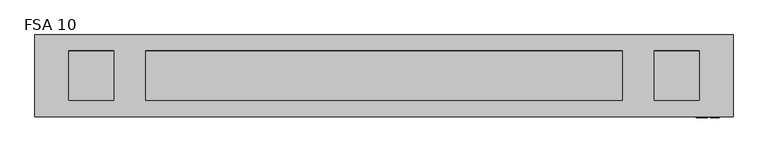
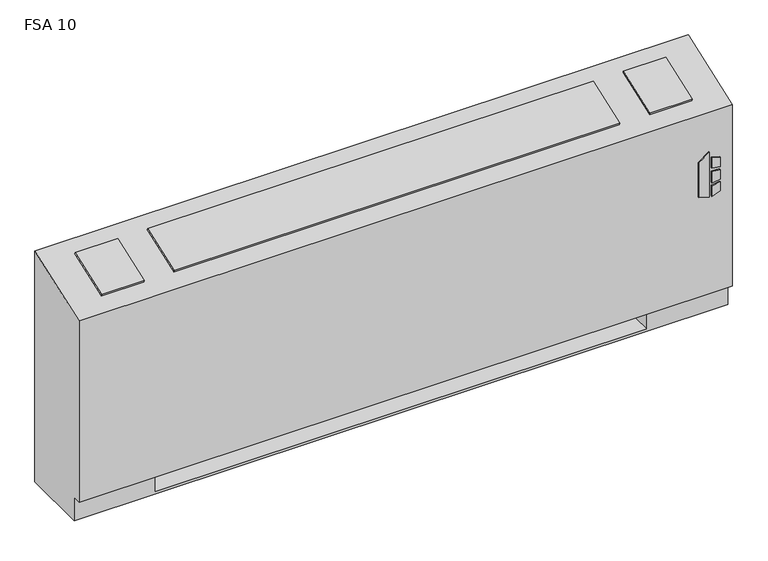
"""IFC4 building model written with IfcOpenShell, lengths in millimetres: proxy geometry, Vertical_Fan_Coil_Unit_-_FSA_-_IEC_-_2-Pipe_TS-FR_RH_2022 : FSA 10."""

from ifc_helpers import new_model, si_unit, point, frame, frame_2d, origin, place, context, project, spatial, polyline, circle_curve, trimmed, segment, composite_curve, outline, extrude, source, transform, mapped, element, save
from ifc_brep_helpers import plane_surface, revolved_surface, advanced_brep


def fsa_10_9e433b3c(model_context):
    return source(origin(), model_context, "Body", "SolidModel", [
        extrude(outline(polyline([(391.6086829, 1027.1868862), (381.6606126, 1059.3602728), (523.831537, 1059.3602728), (500.8095309, 1027.1868862), (391.6086829, 1027.1868862)])), frame((0.0, 12.7, 0.0), z_axis=(0.0, 1.0, 0.0), x_axis=(0.0, 0.0, 1.0)), (0.0, 0.0, 1.0), 3.175),
        extrude(outline(polyline([(470.6079683, 1066.1186058), (467.4055757, 1092.2), (496.6344168, 1092.2), (504.6988318, 1066.1186058), (470.6079683, 1066.1186058)])), frame((0.0, 12.7, 0.0), z_axis=(0.0, 1.0, 0.0), x_axis=(0.0, 0.0, 1.0)), (0.0, 0.0, 1.0), 3.175),
        extrude(outline(polyline([(418.7444414, 1092.2), (415.0789404, 1066.1186058), (381.6606126, 1066.1186058), (390.2948498, 1092.2), (418.7444414, 1092.2)])), frame((0.0, 12.7, 0.0), z_axis=(0.0, 1.0, 0.0), x_axis=(0.0, 0.0, 1.0)), (0.0, 0.0, 1.0), 3.175),
        extrude(outline(polyline([(458.0596028, 1092.2), (460.3414292, 1066.1186058), (424.4038806, 1066.1186058), (427.1451456, 1092.2), (458.0596028, 1092.2)])), frame((0.0, 12.7, 0.0), z_axis=(0.0, 1.0, 0.0), x_axis=(0.0, 0.0, 1.0)), (0.0, 0.0, 1.0), 3.175),
        extrude(outline(polyline([(-704.85, 81.534), (-704.85, 223.266), (-584.2, 223.266), (-584.2, 81.534), (-704.85, 81.534)])), frame((0.0, 0.0, 327.025), z_axis=(0.0, 0.0, 1.0), x_axis=(1.0, 0.0, 0.0)), (0.0, 0.0, 1.0), 260.35),
        extrude(outline(composite_curve([segment(trimmed(circle_curve(frame_2d((952.5, 130.175)), 9.525), [point((942.975, 130.175))], [point((962.025, 130.175))], False, "CARTESIAN"), True, "CONTINUOUS"), segment(trimmed(circle_curve(frame_2d((952.5, 130.175)), 9.525), [point((962.025, 130.175))], [point((942.975, 130.175))], False, "CARTESIAN"), True, "CONTINUOUS")], self_intersect=False)), frame((0.0, 0.0, 101.6), z_axis=(0.0, 0.0, 1.0), x_axis=(1.0, 0.0, 0.0)), (0.0, 0.0, 1.0), 25.4),
        extrude(outline(polyline([(1054.1, 196.85), (1054.1, 63.5), (889.0, 63.5), (889.0, 196.85), (1054.1, 196.85)])), frame((0.0, 0.0, 127.0), z_axis=(0.0, 0.0, 1.0), x_axis=(1.0, 0.0, 0.0)), (0.0, 0.0, 1.0), 50.8),
        extrude(outline(polyline([(0.0, -146.0500001), (0.0, 0.0), (127.0, 0.0), (127.0, -146.0500001), (0.0, -146.0500001)])), frame((-731.393, 200.4217127, 714.3418685), z_axis=(0.0, -0.3396444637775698, 0.9405538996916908), x_axis=(1.0, 0.0, 0.0)), (0.0, 0.0, 1.0), 6.35),
        extrude(outline(polyline([(0.0, -146.0500001), (0.0, 0.0), (1333.5, 0.0), (1333.5, -146.0500001), (0.0, -146.0500001)])), frame((819.15, 63.0538156, 664.7367945), z_axis=(0.0, -0.33964446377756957, 0.9405538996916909), x_axis=(-1.0, 0.0, 0.0)), (0.0, 0.0, 1.0), 6.35),
        extrude(outline(polyline([(0.0, -146.0500001), (0.0, 0.0), (127.0, 0.0), (127.0, -146.0500001), (0.0, -146.0500001)])), frame((1036.193, 63.0538156, 664.7367945), z_axis=(0.0, -0.3396444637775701, 0.9405538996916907), x_axis=(-1.0, 0.0, 0.0)), (0.0, 0.0, 1.0), 6.35),
        extrude(outline(composite_curve([segment(trimmed(circle_curve(frame_2d((109.347, 456.819)), 7.9375), [point((109.347, 464.7565))], [point((109.347, 448.8815))], False, "CARTESIAN"), True, "CONTINUOUS"), segment(trimmed(circle_curve(frame_2d((109.347, 456.819)), 7.9375), [point((109.347, 448.8815))], [point((109.347, 464.7565))], False, "CARTESIAN"), True, "CONTINUOUS")], self_intersect=False)), frame((889.0, 0.0, 0.0), z_axis=(1.0, 0.0, 0.0), x_axis=(0.0, 1.0, 0.0)), (0.0, 0.0, 1.0), 50.8),
        extrude(outline(composite_curve([segment(trimmed(circle_curve(frame_2d((157.4546, 429.4632)), 7.9375), [point((157.4546, 437.4007))], [point((157.4546, 421.5257))], False, "CARTESIAN"), True, "CONTINUOUS"), segment(trimmed(circle_curve(frame_2d((157.4546, 429.4632)), 7.9375), [point((157.4546, 421.5257))], [point((157.4546, 437.4007))], False, "CARTESIAN"), True, "CONTINUOUS")], self_intersect=False)), frame((889.0, 0.0, 0.0), z_axis=(1.0, 0.0, 0.0), x_axis=(0.0, 1.0, 0.0)), (0.0, 0.0, 1.0), 50.8),
        advanced_brep(
        [(-825.5, 244.475, 0.0), (1130.3, 244.475, 0.0), (1130.3, 41.275, 0.0), (-825.5, 41.275, 0.0), (-825.5, 244.475, 730.25), (1130.3, 244.475, 730.25), (889.0, 244.475, 73.025), (1117.6, 244.475, 73.025), (1117.6, 244.475, 654.05), (889.0, 244.475, 654.05), (889.0, 244.475, 414.8650565), (917.575, 244.475, 414.8650565), (917.575, 244.475, 385.2349435), (889.0, 244.475, 385.2349435), (889.0, 244.475, 287.3375), (917.575, 244.475, 287.3375), (917.575, 244.475, 258.7625), (889.0, 244.475, 258.7625), (889.0, 244.475, 141.2875), (917.575, 244.475, 141.2875), (917.575, 244.475, 112.7125), (889.0, 244.475, 112.7125), (-584.2, 244.475, 654.05), (-812.8, 244.475, 654.05), (-812.8, 244.475, 73.025), (-584.2, 244.475, 73.025), (-584.2, 244.475, 112.7125), (-612.775, 244.475, 112.7125), (-612.775, 244.475, 141.2875), (-584.2, 244.475, 141.2875), (-584.2, 244.475, 258.7625), (-612.775, 244.475, 258.7625), (-612.775, 244.475, 287.3375), (-584.2, 244.475, 287.3375), (-584.2, 244.475, 385.2349435), (-612.775, 244.475, 385.2349435), (-612.775, 244.475, 414.8650565), (-584.2, 244.475, 414.8650565), (907.2626, 244.475, 127.0), (896.1374, 244.475, 127.0), (907.2626, 244.475, 400.05), (896.1374, 244.475, 400.05), (907.2626, 244.475, 273.05), (896.1374, 244.475, 273.05), (-591.3374, 244.475, 127.0), (-602.4626, 244.475, 127.0), (-591.3374, 244.475, 273.05), (-602.4626, 244.475, 273.05), (-591.3374, 244.475, 400.05), (-602.4626, 244.475, 400.05), (-825.5, 41.275, 73.025), (-825.5, 15.875, 73.025), (-825.5, 15.875, 647.7), (1130.3, 15.875, 73.025), (1130.3, 15.875, 647.7), (1130.3, 41.275, 73.025), (-584.2, 41.275, 73.025), (-584.2, 225.425, 73.025), (889.0, 225.425, 73.025), (889.0, 41.275, 73.025), (889.0, 41.275, 6.35), (-584.2, 41.275, 6.35), (889.0, 41.275, 654.05), (1117.6, 41.275, 654.05), (1117.6, 41.275, 73.025), (889.0, 41.275, 73.025), (-584.2, 41.275, 654.05), (-584.2, 41.275, 73.025), (-812.8, 41.275, 73.025), (-812.8, 41.275, 654.05), (889.0, 225.425, 73.025), (889.0, 238.125, 112.7125), (889.0, 238.125, 141.2875), (889.0, 238.125, 258.7625), (889.0, 238.125, 287.3375), (889.0, 238.125, 385.2349435), (889.0, 238.125, 414.8650565), (-584.2, 225.425, 73.025), (-584.2, 238.125, 414.8650565), (-584.2, 238.125, 385.2349435), (-584.2, 238.125, 287.3375), (-584.2, 238.125, 258.7625), (-584.2, 238.125, 141.2875), (-584.2, 238.125, 112.7125), (-584.2, 225.425, 6.35), (889.0, 225.425, 6.35), (917.575, 238.125, 112.7125), (917.575, 238.125, 141.2875), (896.1374, 238.125, 127.0), (907.2626, 238.125, 127.0), (917.575, 238.125, 258.7625), (917.575, 238.125, 287.3375), (896.1374, 238.125, 273.05), (907.2626, 238.125, 273.05), (917.575, 238.125, 385.2349435), (917.575, 238.125, 414.8650565), (896.1374, 238.125, 400.05), (907.2626, 238.125, 400.05), (-612.775, 238.125, 141.2875), (-612.775, 238.125, 112.7125), (-602.4626, 238.125, 127.0), (-591.3374, 238.125, 127.0), (-612.775, 238.125, 287.3375), (-612.775, 238.125, 258.7625), (-602.4626, 238.125, 273.05), (-591.3374, 238.125, 273.05), (-612.775, 238.125, 414.8650565), (-612.775, 238.125, 385.2349435), (-602.4626, 238.125, 400.05), (-591.3374, 238.125, 400.05)],
        [
            (0, 1),
            (1, 2),
            (2, 3),
            (3, 0),
            (0, 4),
            (4, 5),
            (5, 1),
            (6, 7),
            (7, 8),
            (8, 9),
            (9, 10),
            (10, 11),
            (11, 12),
            (12, 13),
            (13, 14),
            (14, 15),
            (15, 16),
            (16, 17),
            (17, 18),
            (18, 19),
            (19, 20),
            (20, 21),
            (21, 6),
            (22, 23),
            (23, 24),
            (24, 25),
            (25, 26),
            (26, 27),
            (27, 28),
            (28, 29),
            (29, 30),
            (30, 31),
            (31, 32),
            (32, 33),
            (33, 34),
            (34, 35),
            (35, 36),
            (36, 37),
            (37, 22),
            (38, 39, circle_curve(frame((901.7, 244.475, 127.0), z_axis=(0.0, -1.0, 0.0), x_axis=(-1.0, 0.0, 0.0)), 5.5626)),
            (39, 38, circle_curve(frame((901.7, 244.475, 127.0), z_axis=(0.0, -1.0, 0.0), x_axis=(-1.0, 0.0, 0.0)), 5.5626)),
            (40, 41, circle_curve(frame((901.7, 244.475, 400.05), z_axis=(0.0, -1.0, 0.0), x_axis=(-1.0, 0.0, 0.0)), 5.5626)),
            (41, 40, circle_curve(frame((901.7, 244.475, 400.05), z_axis=(0.0, -1.0, 0.0), x_axis=(-1.0, 0.0, 0.0)), 5.5626)),
            (42, 43, circle_curve(frame((901.7, 244.475, 273.05), z_axis=(0.0, -1.0, 0.0), x_axis=(-1.0, 0.0, 0.0)), 5.5626)),
            (43, 42, circle_curve(frame((901.7, 244.475, 273.05), z_axis=(0.0, -1.0, 0.0), x_axis=(-1.0, 0.0, 0.0)), 5.5626)),
            (44, 45, circle_curve(frame((-596.9, 244.475, 127.0), z_axis=(0.0, -1.0, 0.0), x_axis=(-1.0, 0.0, 0.0)), 5.5626)),
            (45, 44, circle_curve(frame((-596.9, 244.475, 127.0), z_axis=(0.0, -1.0, 0.0), x_axis=(-1.0, 0.0, 0.0)), 5.5626)),
            (46, 47, circle_curve(frame((-596.9, 244.475, 273.05), z_axis=(0.0, -1.0, 0.0), x_axis=(-1.0, 0.0, 0.0)), 5.5626)),
            (47, 46, circle_curve(frame((-596.9, 244.475, 273.05), z_axis=(0.0, -1.0, 0.0), x_axis=(-1.0, 0.0, 0.0)), 5.5626)),
            (48, 49, circle_curve(frame((-596.9, 244.475, 400.05), z_axis=(0.0, -1.0, 0.0), x_axis=(-1.0, 0.0, 0.0)), 5.5626)),
            (49, 48, circle_curve(frame((-596.9, 244.475, 400.05), z_axis=(0.0, -1.0, 0.0), x_axis=(-1.0, 0.0, 0.0)), 5.5626)),
            (3, 50),
            (50, 51),
            (51, 52),
            (52, 4),
            (51, 53),
            (53, 54),
            (54, 52),
            (5, 54),
            (53, 55),
            (55, 2),
            (50, 56),
            (56, 57),
            (57, 58),
            (58, 59),
            (59, 55),
            (59, 60),
            (60, 61),
            (61, 56),
            (62, 63),
            (63, 64),
            (64, 65),
            (65, 62),
            (66, 67),
            (67, 68),
            (68, 69),
            (69, 66),
            (65, 70),
            (70, 6),
            (21, 71),
            (71, 72),
            (72, 18),
            (17, 73),
            (73, 74),
            (74, 14),
            (13, 75),
            (75, 76),
            (76, 10),
            (9, 62),
            (64, 7),
            (63, 8),
            (69, 23),
            (22, 66),
            (68, 24),
            (67, 77),
            (77, 25),
            (37, 78),
            (78, 79),
            (79, 34),
            (33, 80),
            (80, 81),
            (81, 30),
            (29, 82),
            (82, 83),
            (83, 26),
            (57, 84),
            (84, 85),
            (85, 58),
            (85, 60),
            (84, 61),
            (71, 86),
            (86, 87),
            (87, 72),
            (88, 89, circle_curve(frame((901.7, 238.125, 127.0), z_axis=(0.0, 1.0, 0.0), x_axis=(-1.0, 0.0, 0.0)), 5.5626)),
            (89, 88, circle_curve(frame((901.7, 238.125, 127.0), z_axis=(0.0, 1.0, 0.0), x_axis=(-1.0, 0.0, 0.0)), 5.5626)),
            (73, 90),
            (90, 91),
            (91, 74),
            (92, 93, circle_curve(frame((901.7, 238.125, 273.05), z_axis=(0.0, 1.0, 0.0), x_axis=(-1.0, 0.0, 0.0)), 5.5626)),
            (93, 92, circle_curve(frame((901.7, 238.125, 273.05), z_axis=(0.0, 1.0, 0.0), x_axis=(-1.0, 0.0, 0.0)), 5.5626)),
            (75, 94),
            (94, 95),
            (95, 76),
            (96, 97, circle_curve(frame((901.7, 238.125, 400.05), z_axis=(0.0, 1.0, 0.0), x_axis=(-1.0, 0.0, 0.0)), 5.5626)),
            (97, 96, circle_curve(frame((901.7, 238.125, 400.05), z_axis=(0.0, 1.0, 0.0), x_axis=(-1.0, 0.0, 0.0)), 5.5626)),
            (98, 99),
            (99, 83),
            (82, 98),
            (100, 101, circle_curve(frame((-596.9, 238.125, 127.0), z_axis=(0.0, 1.0, 0.0), x_axis=(-1.0, 0.0, 0.0)), 5.5626)),
            (101, 100, circle_curve(frame((-596.9, 238.125, 127.0), z_axis=(0.0, 1.0, 0.0), x_axis=(-1.0, 0.0, 0.0)), 5.5626)),
            (102, 103),
            (103, 81),
            (80, 102),
            (104, 105, circle_curve(frame((-596.9, 238.125, 273.05), z_axis=(0.0, 1.0, 0.0), x_axis=(-1.0, 0.0, 0.0)), 5.5626)),
            (105, 104, circle_curve(frame((-596.9, 238.125, 273.05), z_axis=(0.0, 1.0, 0.0), x_axis=(-1.0, 0.0, 0.0)), 5.5626)),
            (106, 107),
            (107, 79),
            (78, 106),
            (108, 109, circle_curve(frame((-596.9, 238.125, 400.05), z_axis=(0.0, 1.0, 0.0), x_axis=(-1.0, 0.0, 0.0)), 5.5626)),
            (109, 108, circle_curve(frame((-596.9, 238.125, 400.05), z_axis=(0.0, 1.0, 0.0), x_axis=(-1.0, 0.0, 0.0)), 5.5626)),
            (87, 19),
            (86, 20),
            (91, 15),
            (90, 16),
            (95, 11),
            (94, 12),
            (28, 98),
            (99, 27),
            (32, 102),
            (103, 31),
            (36, 106),
            (107, 35),
            (88, 39),
            (38, 89),
            (96, 41),
            (40, 97),
            (92, 43),
            (42, 93),
            (100, 45),
            (44, 101),
            (104, 47),
            (46, 105),
            (108, 49),
            (48, 109),
        ],
        [
            plane_surface(frame((-825.5, 244.475, 0.0), z_axis=(0.0, 0.0, -1.0), x_axis=(1.0, 0.0, 0.0))),
            plane_surface(frame((1130.3, 244.475, 730.25), z_axis=(0.0, 1.0, 0.0), x_axis=(0.0, 0.0, -1.0))),
            plane_surface(frame((-825.5, 244.475, 730.25), z_axis=(-1.0, 0.0, 0.0), x_axis=(0.0, 0.0, -1.0))),
            plane_surface(frame((-825.5, 15.875, 730.25), z_axis=(0.0, -1.0, 0.0), x_axis=(0.0, 0.0, -1.0))),
            plane_surface(frame((1130.3, 15.875, 730.25), z_axis=(1.0, 0.0, 0.0), x_axis=(0.0, 0.0, -1.0))),
            plane_surface(frame((-825.5, 15.875, 73.025), z_axis=(0.0, 0.0, -1.0), x_axis=(1.0, 0.0, 0.0))),
            plane_surface(frame((-825.5, 41.275, 73.025), z_axis=(0.0, -1.0, 0.0), x_axis=(1.0, 0.0, 0.0))),
            plane_surface(frame((889.0, 41.275, 654.05), z_axis=(0.0, 1.0, 0.0), x_axis=(0.0, 0.0, -1.0))),
            plane_surface(frame((889.0, 41.275, 654.05), z_axis=(1.0, 0.0, 0.0), x_axis=(0.0, 1.0, 0.0))),
            plane_surface(frame((889.0, 41.275, 73.025), z_axis=(0.0, 0.0, 1.0), x_axis=(0.0, 1.0, 0.0))),
            plane_surface(frame((1117.6, 41.275, 73.025), z_axis=(-1.0, 0.0, 0.0), x_axis=(0.0, 1.0, 0.0))),
            plane_surface(frame((1117.6, 41.275, 654.05), z_axis=(0.0, 0.0, -1.0), x_axis=(0.0, 1.0, 0.0))),
            plane_surface(frame((-584.2, 41.275, 654.05), z_axis=(0.0, 0.0, -1.0), x_axis=(0.0, 1.0, 0.0))),
            plane_surface(frame((-812.8, 41.275, 654.05), z_axis=(1.0, 0.0, 0.0), x_axis=(0.0, 1.0, 0.0))),
            plane_surface(frame((-812.8, 41.275, 73.025), z_axis=(0.0, 0.0, 1.0), x_axis=(0.0, 1.0, 0.0))),
            plane_surface(frame((-584.2, 41.275, 73.025), z_axis=(-1.0, 0.0, 0.0), x_axis=(0.0, 1.0, 0.0))),
            plane_surface(frame((889.0, 225.425, 73.025), z_axis=(0.0, -1.0, 0.0), x_axis=(0.0, 0.0, -1.0))),
            plane_surface(frame((889.0, 225.425, 73.025), z_axis=(-1.0, 0.0, 0.0), x_axis=(0.0, -1.0, 0.0))),
            plane_surface(frame((889.0, 225.425, 6.35), z_axis=(0.0, 0.0, 1.0), x_axis=(0.0, -1.0, 0.0))),
            plane_surface(frame((-584.2, 225.425, 6.35), z_axis=(1.0, 0.0, 0.0), x_axis=(0.0, -1.0, 0.0))),
            plane_surface(frame((917.575, 238.125, 141.2875), z_axis=(0.0, -1.0, 0.0), x_axis=(-1.0, 0.0, 0.0))),
            plane_surface(frame((889.0, 244.475, 141.2875), z_axis=(0.0, 0.0, 1.0), x_axis=(0.0, -1.0, 0.0))),
            plane_surface(frame((917.575, 244.475, 141.2875), z_axis=(1.0, 0.0, 0.0), x_axis=(0.0, -1.0, 0.0))),
            plane_surface(frame((917.575, 244.475, 112.7125), z_axis=(0.0, 0.0, -1.0), x_axis=(0.0, -1.0, 0.0))),
            plane_surface(frame((889.0, 244.475, 287.3375), z_axis=(0.0, 0.0, 1.0), x_axis=(0.0, -1.0, 0.0))),
            plane_surface(frame((917.575, 244.475, 287.3375), z_axis=(1.0, 0.0, 0.0), x_axis=(0.0, -1.0, 0.0))),
            plane_surface(frame((917.575, 244.475, 258.7625), z_axis=(0.0, 0.0, -1.0), x_axis=(0.0, -1.0, 0.0))),
            plane_surface(frame((889.0, 244.475, 414.8650565), z_axis=(0.0, 0.0, 1.0), x_axis=(0.0, -1.0, 0.0))),
            plane_surface(frame((917.575, 244.475, 414.8650565), z_axis=(1.0, 0.0, 0.0), x_axis=(0.0, -1.0, 0.0))),
            plane_surface(frame((917.575, 244.475, 385.2349435), z_axis=(0.0, 0.0, -1.0), x_axis=(0.0, -1.0, 0.0))),
            plane_surface(frame((-612.775, 244.475, 141.2875), z_axis=(0.0, 0.0, 1.0), x_axis=(0.0, -1.0, 0.0))),
            plane_surface(frame((-584.2, 244.475, 112.7125), z_axis=(0.0, 0.0, -1.0), x_axis=(0.0, -1.0, 0.0))),
            plane_surface(frame((-612.775, 244.475, 112.7125), z_axis=(-1.0, 0.0, 0.0), x_axis=(0.0, -1.0, 0.0))),
            plane_surface(frame((-612.775, 244.475, 287.3375), z_axis=(0.0, 0.0, 1.0), x_axis=(0.0, -1.0, 0.0))),
            plane_surface(frame((-584.2, 244.475, 258.7625), z_axis=(0.0, 0.0, -1.0), x_axis=(0.0, -1.0, 0.0))),
            plane_surface(frame((-612.775, 244.475, 258.7625), z_axis=(-1.0, 0.0, 0.0), x_axis=(0.0, -1.0, 0.0))),
            plane_surface(frame((-612.775, 244.475, 414.8650565), z_axis=(0.0, 0.0, 1.0), x_axis=(0.0, -1.0, 0.0))),
            plane_surface(frame((-584.2, 244.475, 385.2349435), z_axis=(0.0, 0.0, -1.0), x_axis=(0.0, -1.0, 0.0))),
            plane_surface(frame((-612.775, 244.475, 385.2349435), z_axis=(-1.0, 0.0, 0.0), x_axis=(0.0, -1.0, 0.0))),
            revolved_surface(polyline([(896.1374000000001, 238.125, 127.0), (896.1374000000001, 244.475, 127.0)]), (901.7, 244.475, 127.0), (0.0, -1.0, 0.0)),
            revolved_surface(polyline([(896.1374000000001, 238.125, 400.05), (896.1374000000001, 244.475, 400.05)]), (901.7, 244.475, 400.05), (0.0, -1.0, 0.0)),
            revolved_surface(polyline([(896.1374000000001, 238.125, 273.05), (896.1374000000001, 244.475, 273.05)]), (901.7, 244.475, 273.05), (0.0, -1.0, 0.0)),
            revolved_surface(polyline([(-602.4626, 238.125, 127.0), (-602.4626, 244.475, 127.0)]), (-596.9, 244.475, 127.0), (0.0, -1.0, 0.0)),
            revolved_surface(polyline([(-602.4626, 238.125, 273.05), (-602.4626, 244.475, 273.05)]), (-596.9, 244.475, 273.05), (0.0, -1.0, 0.0)),
            revolved_surface(polyline([(-602.4626, 238.125, 400.05), (-602.4626, 244.475, 400.05)]), (-596.9, 244.475, 400.05), (0.0, -1.0, 0.0)),
            plane_surface(frame((-825.5, 244.475, 730.25), z_axis=(0.0, -0.33964446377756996, 0.9405538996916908), x_axis=(1.0, 0.0, 0.0))),
        ],
        [
            (0, [[1, 2, 3, 4]]),
            (1, [[-1, 5, 6, 7], [8, 9, 10, 11, 12, 13, 14, 15, 16, 17, 18, 19, 20, 21, 22, 23], [24, 25, 26, 27, 28, 29, 30, 31, 32, 33, 34, 35, 36, 37, 38, 39], [40, 41], [42, 43], [44, 45], [46, 47], [48, 49], [50, 51]]),
            (2, [[-5, -4, 52, 53, 54, 55]]),
            (3, [[56, 57, 58, -54]]),
            (4, [[-7, 59, -57, 60, 61, -2]]),
            (5, [[-53, 62, 63, 64, 65, 66, -60, -56]]),
            (6, [[-3, -61, -66, 67, 68, 69, -62, -52]]),
            (7, [[70, 71, 72, 73]]),
            (7, [[74, 75, 76, 77]]),
            (8, [[-73, 78, 79, -23, 80, 81, 82, -19, 83, 84, 85, -15, 86, 87, 88, -11, 89]]),
            (9, [[-72, 90, -8, -79, -78]]),
            (10, [[-71, 91, -9, -90]]),
            (11, [[-70, -89, -10, -91]]),
            (12, [[-77, 92, -24, 93]]),
            (13, [[-76, 94, -25, -92]]),
            (14, [[-75, 95, 96, -26, -94]]),
            (15, [[-74, -93, -39, 97, 98, 99, -35, 100, 101, 102, -31, 103, 104, 105, -27, -96, -95]]),
            (16, [[-64, 106, 107, 108]]),
            (17, [[-108, 109, -67, -65]]),
            (18, [[-107, 110, -68, -109]]),
            (19, [[-106, -63, -69, -110]]),
            (20, [[111, 112, 113, -81], [114, 115]]),
            (20, [[116, 117, 118, -84], [119, 120]]),
            (20, [[121, 122, 123, -87], [124, 125]]),
            (20, [[126, 127, -104, 128], [129, 130]]),
            (20, [[131, 132, -101, 133], [134, 135]]),
            (20, [[136, 137, -98, 138], [139, 140]]),
            (21, [[-113, 141, -20, -82]]),
            (22, [[-112, 142, -21, -141]]),
            (23, [[-111, -80, -22, -142]]),
            (24, [[-118, 143, -16, -85]]),
            (25, [[-117, 144, -17, -143]]),
            (26, [[-116, -83, -18, -144]]),
            (27, [[-123, 145, -12, -88]]),
            (28, [[-122, 146, -13, -145]]),
            (29, [[-121, -86, -14, -146]]),
            (30, [[-128, -103, -30, 147]]),
            (31, [[-127, 148, -28, -105]]),
            (32, [[-126, -147, -29, -148]]),
            (33, [[-133, -100, -34, 149]]),
            (34, [[-132, 150, -32, -102]]),
            (35, [[-131, -149, -33, -150]]),
            (36, [[-138, -97, -38, 151]]),
            (37, [[-137, 152, -36, -99]]),
            (38, [[-136, -151, -37, -152]]),
            (39, [[153, -40, 154, -114]]),
            (39, [[-153, -115, -154, -41]]),
            (40, [[155, -42, 156, -124]]),
            (40, [[-155, -125, -156, -43]]),
            (41, [[157, -44, 158, -119]]),
            (41, [[-157, -120, -158, -45]]),
            (42, [[159, -46, 160, -129]]),
            (42, [[-159, -130, -160, -47]]),
            (43, [[161, -48, 162, -134]]),
            (43, [[-161, -135, -162, -49]]),
            (44, [[163, -50, 164, -139]]),
            (44, [[-163, -140, -164, -51]]),
            (45, [[-6, -55, -58, -59]]),
        ],
    ),
    ])


if __name__ == "__main__":
    model = new_model("IFC4")
    model_context = context("Model", 3, world=origin())
    ifc_project = project(units=[si_unit("LENGTHUNIT", "METRE", prefix="MILLI")], contexts=[model_context])
    site = spatial("IfcSite", under=ifc_project)
    building = spatial("IfcBuilding", under=site)
    placement = place(None, origin())
    fsa_10_shape = fsa_10_9e433b3c(model_context)
    element("IfcBuildingElementProxy", 1, Name="Vertical_Fan_Coil_Unit_-_FSA_-_IEC_-_2-Pipe_TS-FR_RH_2022 : FSA 10", ObjectType="Vertical_Fan_Coil_Unit_-_FSA_-_IEC_-_2-Pipe_TS-FR_RH_2022 : FSA 10", at=placement, inside=building, context=model_context, shape_type="MappedRepresentation", body=[
        mapped(fsa_10_shape, transform((0.0, 0.0, 0.0), x_axis=(1.0, 0.0, 0.0), y_axis=(0.0, 1.0, 0.0), z_axis=(0.0, 0.0, 1.0))),
    ])
    save(model, "model.ifc")
